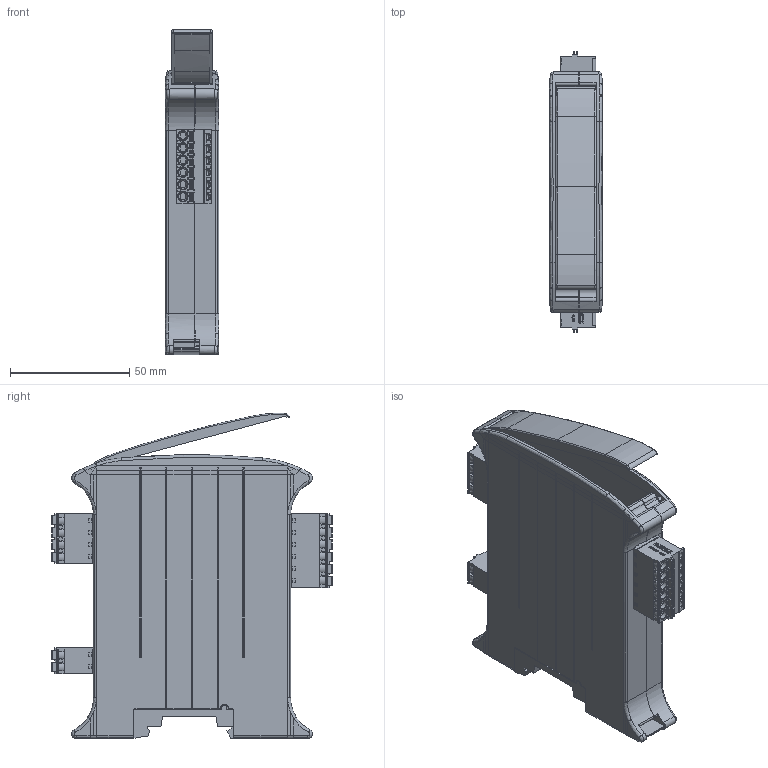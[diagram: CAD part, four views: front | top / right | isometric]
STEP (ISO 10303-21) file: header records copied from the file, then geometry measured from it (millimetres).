
FILE_DESCRIPTION(('CATIA V5 STEP Exchange'),'2;1');
FILE_NAME('C:\Users\Adam\Desktop\DAVIC PRÁCE\LAMBDA_LCP80\LAMBDA_LCP80.stp','2024-03-27T13:27:18+00:00',('none'),('none'),'CATIA Version 5 Release 21 GA (IN-10)','CATIA V5 STEP AP203','none');
FILE_SCHEMA(('CONFIG_CONTROL_DESIGN'));
Products named in the file (5): LAMBDA80; Railbox Standard 22.5 mm BUS_RENDERING; 2023_02_13_11_52_20_0461; 2023_02_15_13_30_45_0571; 2023_02_15_13_32_11_0745
Assembly tree (36 placements, depth 3):
  LAMBDA80
    Railbox Standard 22.5 mm BUS_RENDERING
      #66
      #1015
      #3338
      #4575
      #15158
    2023_02_13_11_52_20_0461
      #25358
      #25585
      #26057
      #26284
      #26756
    2023_02_15_13_30_45_0571
      #54573
      #54800
      #55272
      #55499
      #55971
      #56198
      #56670
      #56897
      #57369
    2023_02_15_13_32_11_0745
      #92894
      #93121
      #93593
      #93820
      #94292
      #94519
      #94991
      #95218
      #95690
      #95917
      #96389
      #96616
      #97088
Bounding box: 22.5 x 117.64 x 136.48 mm (x, y, z)
Volume: 70159.6 mm3; surface area: 72223.2 mm2
Topology: 32 solids, 35 shells, 4181 faces, 11587 edges, 7620 vertices
Faces by surface type: plane 2945, cylinder 824, bspline 162, cone 102, torus 87, sphere 53, extrusion 8
Entity records: 139368 total; most frequent: CARTESIAN_POINT 34680, ORIENTED_EDGE 23136, DIRECTION 18504, EDGE_CURVE 11568, VECTOR 8740, LINE 8732, VERTEX_POINT 7620, AXIS2_PLACEMENT_3D 5709
